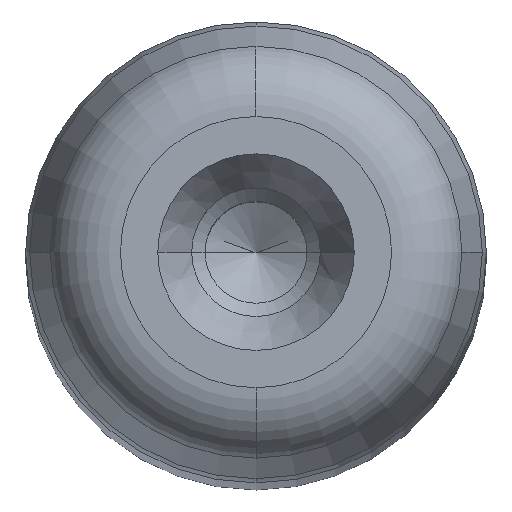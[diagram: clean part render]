
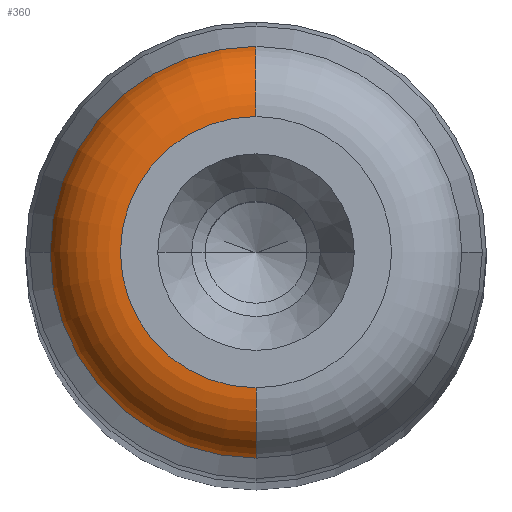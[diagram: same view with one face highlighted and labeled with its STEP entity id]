
A CAD part, top view. The second image highlights one B-rep face of the part: STEP entity #360.
In plain terms, the highlighted toroidal (fillet/blend) face has major radius 5.59 mm and minor radius 3 mm.
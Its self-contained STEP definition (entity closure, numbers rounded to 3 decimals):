
#308=CARTESIAN_POINT('',(0.0,177.0,0.0));
#309=DIRECTION('',(0.0,1.0,0.0));
#310=DIRECTION('',(0.0,0.0,1.0));
#311=AXIS2_PLACEMENT_3D('',#308,#309,#310);
#312=TOROIDAL_SURFACE('',#311,5.59,3.0);
#313=CARTESIAN_POINT('',(0.0,180.0,5.59));
#314=VERTEX_POINT('',#313);
#315=CARTESIAN_POINT('',(0.0,177.776,8.488));
#316=VERTEX_POINT('',#315);
#317=CARTESIAN_POINT('',(0.0,177.0,5.59));
#318=DIRECTION('',(1.0,0.0,0.0));
#319=DIRECTION('',(0.0,0.0,1.0));
#320=AXIS2_PLACEMENT_3D('',#317,#318,#319);
#321=CIRCLE('',#320,3.);
#322=EDGE_CURVE('',#314,#316,#321,.T.);
#323=ORIENTED_EDGE('',*,*,#322,.F.);
#324=CARTESIAN_POINT('',(0.,180.0,-5.59));
#325=VERTEX_POINT('',#324);
#326=CARTESIAN_POINT('',(0.0,180.0,0.0));
#327=DIRECTION('',(0.0,1.0,0.0));
#328=DIRECTION('',(1.0,0.0,0.0));
#329=AXIS2_PLACEMENT_3D('',#326,#327,#328);
#330=CIRCLE('',#329,5.59);
#331=EDGE_CURVE('',#325,#314,#330,.T.);
#332=ORIENTED_EDGE('',*,*,#331,.F.);
#333=CARTESIAN_POINT('',(0.,177.776,-8.488));
#334=VERTEX_POINT('',#333);
#335=CARTESIAN_POINT('',(0.,177.0,-5.59));
#336=DIRECTION('',(-1.0,0.0,0.0));
#337=DIRECTION('',(0.0,0.0,-1.0));
#338=AXIS2_PLACEMENT_3D('',#335,#336,#337);
#339=CIRCLE('',#338,3.);
#340=EDGE_CURVE('',#325,#334,#339,.T.);
#341=ORIENTED_EDGE('',*,*,#340,.T.);
#342=CARTESIAN_POINT('',(-8.488,177.776,0.));
#343=VERTEX_POINT('',#342);
#344=CARTESIAN_POINT('',(0.0,177.776,0.0));
#345=DIRECTION('',(0.0,1.0,0.0));
#346=DIRECTION('',(1.0,0.0,0.0));
#347=AXIS2_PLACEMENT_3D('',#344,#345,#346);
#348=CIRCLE('',#347,8.488);
#349=EDGE_CURVE('',#334,#343,#348,.T.);
#350=ORIENTED_EDGE('',*,*,#349,.T.);
#351=CARTESIAN_POINT('',(0.0,177.776,0.0));
#352=DIRECTION('',(0.0,1.0,0.0));
#353=DIRECTION('',(1.0,0.0,0.0));
#354=AXIS2_PLACEMENT_3D('',#351,#352,#353);
#355=CIRCLE('',#354,8.488);
#356=EDGE_CURVE('',#343,#316,#355,.T.);
#357=ORIENTED_EDGE('',*,*,#356,.T.);
#358=EDGE_LOOP('',(#323,#332,#341,#350,#357));
#359=FACE_OUTER_BOUND('',#358,.T.);
#360=ADVANCED_FACE('',(#359),#312,.T.);
